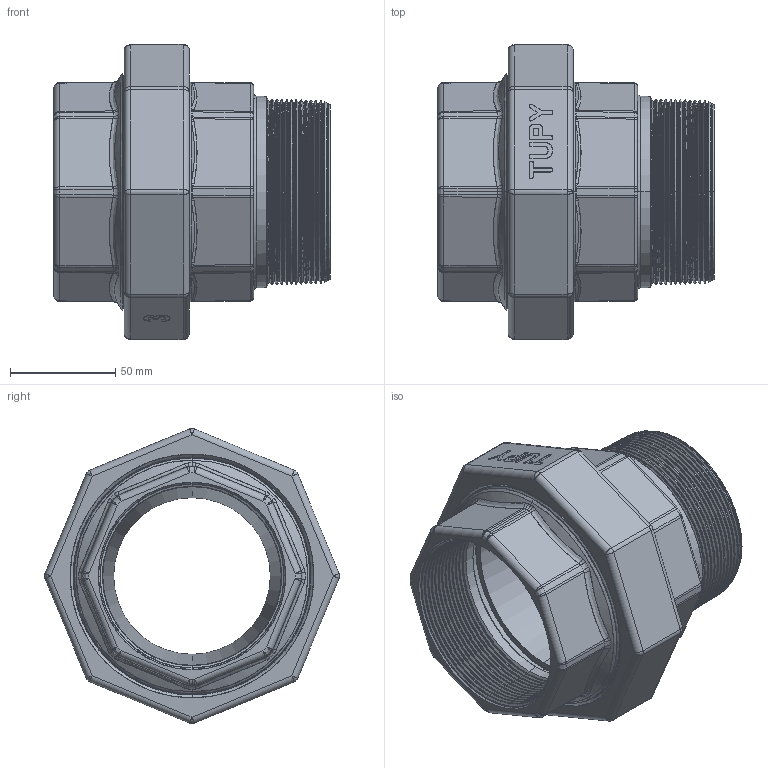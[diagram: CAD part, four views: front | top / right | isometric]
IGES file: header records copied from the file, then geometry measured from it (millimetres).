
Start section: SolidWorks IGES file using analytic representation for surfaces
Global section: file name: C:\Users\Joel Rosa\Desktop\Tubulação\12-65-X\12-65-012.IGS; native system: SolidWorks 2011; preprocessor: SolidWorks 2011; author: Joel Rosa; date: 130721.175923; units: millimetre
Bounding box: 131.5 x 140.21 x 140.22 mm (x, y, z)
Surface area: 143585 mm2 (no closed solid volume)
Topology: 0 solids, 0 shells, 808 faces, 6328 edges, 6322 vertices
Faces by surface type: bspline 505, revolution 303
